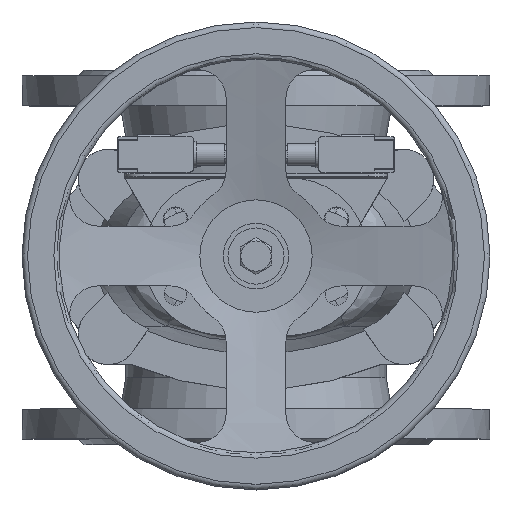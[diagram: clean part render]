
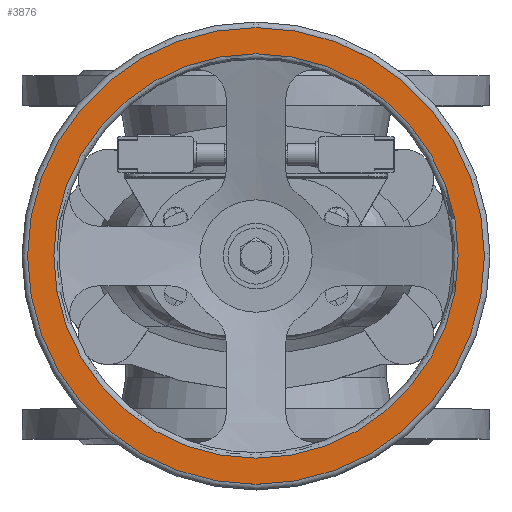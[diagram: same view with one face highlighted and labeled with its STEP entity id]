
A CAD part, top view. The second image highlights one B-rep face of the part: STEP entity #3876.
In plain terms, the highlighted planar face has unit normal (0, 0, 1).
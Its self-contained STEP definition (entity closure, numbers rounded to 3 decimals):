
#3876=ADVANCED_FACE('',(#8098,#8100),#8102,.T.);
#8098=FACE_BOUND('',#8099,.T.);
#8099=EDGE_LOOP('',(#10489));
#8100=FACE_BOUND('',#8101,.T.);
#8101=EDGE_LOOP('',(#10490));
#8102=PLANE('',#8103);
#8103=AXIS2_PLACEMENT_3D('',#8104,#8105,#8106);
#8104=CARTESIAN_POINT('',(0.,0.,476.));
#8105=DIRECTION('',(0.,0.,1.));
#8106=DIRECTION('',(0.,-1.,0.));
#10489=ORIENTED_EDGE('',*,*,#11678,.T.);
#10490=ORIENTED_EDGE('',*,*,#11675,.F.);
#11675=EDGE_CURVE('',#13499,#13499,#13500,.T.);
#11678=EDGE_CURVE('',#13505,#13505,#13506,.T.);
#13499=VERTEX_POINT('',#22966);
#13500=CIRCLE('',#22967,108.);
#13505=VERTEX_POINT('',#22981);
#13506=CIRCLE('',#22982,122.);
#22966=CARTESIAN_POINT('',(0.,-108.,476.));
#22967=AXIS2_PLACEMENT_3D('',#22968,#22969,#22970);
#22968=CARTESIAN_POINT('',(0.,0.,476.));
#22969=DIRECTION('',(0.,0.,1.));
#22970=DIRECTION('',(0.,-1.,0.));
#22981=CARTESIAN_POINT('',(0.,-122.,476.));
#22982=AXIS2_PLACEMENT_3D('',#22983,#22984,#22985);
#22983=CARTESIAN_POINT('',(0.,0.,476.));
#22984=DIRECTION('',(0.,0.,1.));
#22985=DIRECTION('',(0.,-1.,0.));
